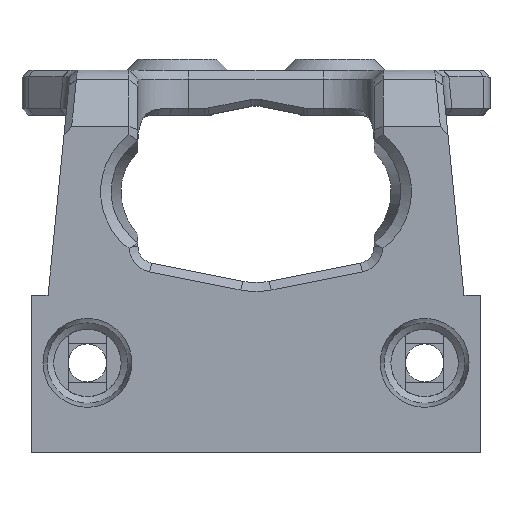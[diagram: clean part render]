
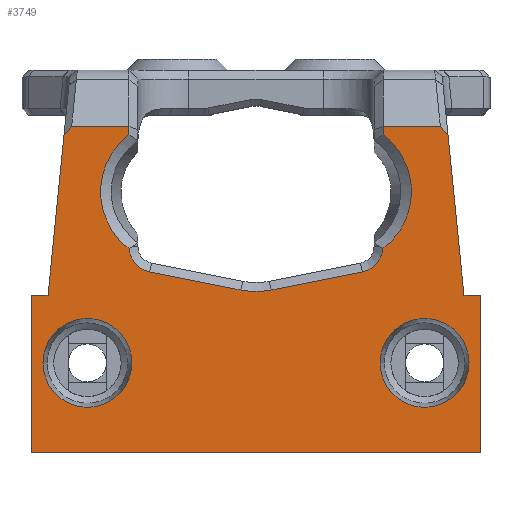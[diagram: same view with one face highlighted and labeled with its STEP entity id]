
A CAD part, top view. The second image highlights one B-rep face of the part: STEP entity #3749.
In plain terms, the highlighted planar face has unit normal (0, 0, 1).
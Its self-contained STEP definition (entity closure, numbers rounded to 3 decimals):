
#84=B_SPLINE_CURVE_WITH_KNOTS('',3,(#5677,#5678,#5679,#5680,#5681,#5682,
#5683),.UNSPECIFIED.,.F.,.F.,(4,1,1,1,4),(2.228,2.587,
3.003,3.557,4.054),.UNSPECIFIED.);
#85=B_SPLINE_CURVE_WITH_KNOTS('',3,(#5695,#5696,#5697,#5698,#5699,#5700,
#5701),.UNSPECIFIED.,.F.,.F.,(4,1,1,1,4),(-4.054,-3.557,
-3.003,-2.587,-2.228),.UNSPECIFIED.);
#185=FACE_BOUND('',#634,.T.);
#186=FACE_BOUND('',#635,.T.);
#280=PLANE('',#4027);
#412=FACE_OUTER_BOUND('',#633,.T.);
#633=EDGE_LOOP('',(#2817,#2818,#2819,#2820,#2821,#2822,#2823,#2824,#2825,
#2826,#2827,#2828,#2829,#2830,#2831,#2832,#2833,#2834,#2835,#2836));
#634=EDGE_LOOP('',(#2837));
#635=EDGE_LOOP('',(#2838));
#890=LINE('',#5571,#1232);
#908=LINE('',#5653,#1250);
#910=LINE('',#5657,#1252);
#911=LINE('',#5659,#1253);
#912=LINE('',#5661,#1254);
#913=LINE('',#5663,#1255);
#914=LINE('',#5665,#1256);
#915=LINE('',#5667,#1257);
#916=LINE('',#5669,#1258);
#917=LINE('',#5671,#1259);
#918=LINE('',#5673,#1260);
#919=LINE('',#5675,#1261);
#920=LINE('',#5687,#1262);
#921=LINE('',#5691,#1263);
#922=LINE('',#5702,#1264);
#1232=VECTOR('',#4517,10.);
#1250=VECTOR('',#4551,10.);
#1252=VECTOR('',#4555,10.);
#1253=VECTOR('',#4556,10.);
#1254=VECTOR('',#4557,10.);
#1255=VECTOR('',#4558,10.);
#1256=VECTOR('',#4559,10.);
#1257=VECTOR('',#4560,10.);
#1258=VECTOR('',#4561,10.);
#1259=VECTOR('',#4562,10.);
#1260=VECTOR('',#4563,10.);
#1261=VECTOR('',#4564,10.);
#1262=VECTOR('',#4567,10.);
#1263=VECTOR('',#4570,10.);
#1264=VECTOR('',#4573,10.);
#1494=CIRCLE('',#3940,3.952);
#1508=CIRCLE('',#3970,3.952);
#1534=CIRCLE('',#4028,2.3);
#1535=CIRCLE('',#4029,6.8);
#1536=CIRCLE('',#4030,2.3);
#1596=VERTEX_POINT('',#5221);
#1622=VERTEX_POINT('',#5305);
#1680=VERTEX_POINT('',#5569);
#1681=VERTEX_POINT('',#5570);
#1701=VERTEX_POINT('',#5652);
#1702=VERTEX_POINT('',#5656);
#1703=VERTEX_POINT('',#5658);
#1704=VERTEX_POINT('',#5660);
#1705=VERTEX_POINT('',#5662);
#1706=VERTEX_POINT('',#5664);
#1707=VERTEX_POINT('',#5666);
#1708=VERTEX_POINT('',#5668);
#1709=VERTEX_POINT('',#5670);
#1710=VERTEX_POINT('',#5672);
#1711=VERTEX_POINT('',#5674);
#1712=VERTEX_POINT('',#5676);
#1713=VERTEX_POINT('',#5684);
#1714=VERTEX_POINT('',#5686);
#1715=VERTEX_POINT('',#5688);
#1716=VERTEX_POINT('',#5690);
#1717=VERTEX_POINT('',#5692);
#1718=VERTEX_POINT('',#5694);
#1966=EDGE_CURVE('',#1596,#1596,#1494,.T.);
#2008=EDGE_CURVE('',#1622,#1622,#1508,.T.);
#2086=EDGE_CURVE('',#1680,#1681,#890,.T.);
#2114=EDGE_CURVE('',#1681,#1701,#908,.T.);
#2116=EDGE_CURVE('',#1680,#1702,#910,.T.);
#2117=EDGE_CURVE('',#1702,#1703,#911,.T.);
#2118=EDGE_CURVE('',#1703,#1704,#912,.T.);
#2119=EDGE_CURVE('',#1704,#1705,#913,.T.);
#2120=EDGE_CURVE('',#1705,#1706,#914,.T.);
#2121=EDGE_CURVE('',#1706,#1707,#915,.T.);
#2122=EDGE_CURVE('',#1707,#1708,#916,.T.);
#2123=EDGE_CURVE('',#1709,#1708,#917,.T.);
#2124=EDGE_CURVE('',#1710,#1709,#918,.T.);
#2125=EDGE_CURVE('',#1711,#1710,#919,.T.);
#2126=EDGE_CURVE('',#1712,#1711,#84,.T.);
#2127=EDGE_CURVE('',#1713,#1712,#1534,.T.);
#2128=EDGE_CURVE('',#1714,#1713,#920,.T.);
#2129=EDGE_CURVE('',#1715,#1714,#1535,.T.);
#2130=EDGE_CURVE('',#1716,#1715,#921,.T.);
#2131=EDGE_CURVE('',#1717,#1716,#1536,.T.);
#2132=EDGE_CURVE('',#1718,#1717,#85,.T.);
#2133=EDGE_CURVE('',#1701,#1718,#922,.T.);
#2817=ORIENTED_EDGE('',*,*,#2086,.F.);
#2818=ORIENTED_EDGE('',*,*,#2116,.T.);
#2819=ORIENTED_EDGE('',*,*,#2117,.T.);
#2820=ORIENTED_EDGE('',*,*,#2118,.T.);
#2821=ORIENTED_EDGE('',*,*,#2119,.T.);
#2822=ORIENTED_EDGE('',*,*,#2120,.T.);
#2823=ORIENTED_EDGE('',*,*,#2121,.T.);
#2824=ORIENTED_EDGE('',*,*,#2122,.T.);
#2825=ORIENTED_EDGE('',*,*,#2123,.F.);
#2826=ORIENTED_EDGE('',*,*,#2124,.F.);
#2827=ORIENTED_EDGE('',*,*,#2125,.F.);
#2828=ORIENTED_EDGE('',*,*,#2126,.F.);
#2829=ORIENTED_EDGE('',*,*,#2127,.F.);
#2830=ORIENTED_EDGE('',*,*,#2128,.F.);
#2831=ORIENTED_EDGE('',*,*,#2129,.F.);
#2832=ORIENTED_EDGE('',*,*,#2130,.F.);
#2833=ORIENTED_EDGE('',*,*,#2131,.F.);
#2834=ORIENTED_EDGE('',*,*,#2132,.F.);
#2835=ORIENTED_EDGE('',*,*,#2133,.F.);
#2836=ORIENTED_EDGE('',*,*,#2114,.F.);
#2837=ORIENTED_EDGE('',*,*,#1966,.T.);
#2838=ORIENTED_EDGE('',*,*,#2008,.T.);
#3749=ADVANCED_FACE('',(#412,#185,#186),#280,.T.);
#3940=AXIS2_PLACEMENT_3D('',#5222,#4294,#4295);
#3970=AXIS2_PLACEMENT_3D('',#5306,#4382,#4383);
#4027=AXIS2_PLACEMENT_3D('',#5655,#4553,#4554);
#4028=AXIS2_PLACEMENT_3D('',#5685,#4565,#4566);
#4029=AXIS2_PLACEMENT_3D('',#5689,#4568,#4569);
#4030=AXIS2_PLACEMENT_3D('',#5693,#4571,#4572);
#4294=DIRECTION('center_axis',(0.,0.,-1.));
#4295=DIRECTION('ref_axis',(1.,0.,0.));
#4382=DIRECTION('center_axis',(0.,0.,-1.));
#4383=DIRECTION('ref_axis',(-1.,0.,0.));
#4517=DIRECTION('',(0.63,0.777,0.));
#4551=DIRECTION('',(1.,0.,0.));
#4553=DIRECTION('center_axis',(0.,0.,1.));
#4554=DIRECTION('ref_axis',(1.,0.,0.));
#4555=DIRECTION('',(-0.099,-0.995,0.));
#4556=DIRECTION('',(-1.,0.,0.));
#4557=DIRECTION('',(0.,-1.,0.));
#4558=DIRECTION('',(1.,0.,0.));
#4559=DIRECTION('',(0.,1.,0.));
#4560=DIRECTION('',(-1.,0.,0.));
#4561=DIRECTION('',(-0.099,0.995,0.));
#4562=DIRECTION('',(0.63,-0.777,0.));
#4563=DIRECTION('',(1.,0.,0.));
#4564=DIRECTION('',(0.,1.,0.));
#4565=DIRECTION('center_axis',(0.,0.,1.));
#4566=DIRECTION('ref_axis',(0.773,-0.634,0.));
#4567=DIRECTION('',(0.981,0.196,0.));
#4568=DIRECTION('center_axis',(0.,0.,1.));
#4569=DIRECTION('ref_axis',(0.,-1.,0.));
#4570=DIRECTION('',(0.981,-0.196,0.));
#4571=DIRECTION('center_axis',(0.,0.,1.));
#4572=DIRECTION('ref_axis',(-0.773,-0.634,0.));
#4573=DIRECTION('',(0.,-1.,0.));
#5221=CARTESIAN_POINT('',(-8.952,-34.533,42.875));
#5222=CARTESIAN_POINT('Origin',(-5.,-34.533,42.875));
#5305=CARTESIAN_POINT('',(-31.048,-34.533,42.875));
#5306=CARTESIAN_POINT('Origin',(-35.,-34.533,42.875));
#5569=CARTESIAN_POINT('',(-37.084,-14.32,42.875));
#5570=CARTESIAN_POINT('',(-36.398,-13.473,42.875));
#5571=CARTESIAN_POINT('',(-36.318,-13.374,42.875));
#5652=CARTESIAN_POINT('',(-31.3,-13.473,42.875));
#5653=CARTESIAN_POINT('',(-11.75,-13.473,42.875));
#5655=CARTESIAN_POINT('Origin',(-20.,-25.503,42.875));
#5656=CARTESIAN_POINT('',(-38.5,-28.5,42.875));
#5657=CARTESIAN_POINT('',(-36.5,-8.473,42.875));
#5658=CARTESIAN_POINT('',(-40.,-28.5,42.875));
#5659=CARTESIAN_POINT('',(-32.6,-28.5,42.875));
#5660=CARTESIAN_POINT('',(-40.,-42.533,42.875));
#5661=CARTESIAN_POINT('',(-40.,-28.5,42.875));
#5662=CARTESIAN_POINT('',(0.,-42.533,42.875));
#5663=CARTESIAN_POINT('',(-40.,-42.533,42.875));
#5664=CARTESIAN_POINT('',(0.,-28.5,42.875));
#5665=CARTESIAN_POINT('',(0.,-42.533,42.875));
#5666=CARTESIAN_POINT('',(-1.5,-28.5,42.875));
#5667=CARTESIAN_POINT('',(0.,-28.5,42.875));
#5668=CARTESIAN_POINT('',(-2.916,-14.32,42.875));
#5669=CARTESIAN_POINT('',(-1.5,-28.5,42.875));
#5670=CARTESIAN_POINT('',(-3.602,-13.473,42.875));
#5671=CARTESIAN_POINT('',(-3.574,-13.508,42.875));
#5672=CARTESIAN_POINT('',(-8.7,-13.473,42.875));
#5673=CARTESIAN_POINT('',(-11.75,-13.473,42.875));
#5674=CARTESIAN_POINT('',(-8.7,-14.234,42.875));
#5675=CARTESIAN_POINT('',(-8.7,-16.988,42.875));
#5676=CARTESIAN_POINT('',(-8.708,-24.373,42.875));
#5677=CARTESIAN_POINT('Ctrl Pts',(-8.708,-24.373,42.875));
#5678=CARTESIAN_POINT('Ctrl Pts',(-8.091,-23.904,42.875));
#5679=CARTESIAN_POINT('Ctrl Pts',(-6.946,-22.658,42.875));
#5680=CARTESIAN_POINT('Ctrl Pts',(-5.94,-19.927,42.875));
#5681=CARTESIAN_POINT('Ctrl Pts',(-6.397,-16.7,42.875));
#5682=CARTESIAN_POINT('Ctrl Pts',(-7.85,-14.882,42.875));
#5683=CARTESIAN_POINT('Ctrl Pts',(-8.7,-14.234,42.875));
#5684=CARTESIAN_POINT('',(-10.549,-26.434,42.875));
#5685=CARTESIAN_POINT('Origin',(-11.,-24.179,42.875));
#5686=CARTESIAN_POINT('',(-18.666,-28.058,42.875));
#5687=CARTESIAN_POINT('',(-14.4,-27.205,42.875));
#5688=CARTESIAN_POINT('',(-21.334,-28.058,42.875));
#5689=CARTESIAN_POINT('Origin',(-20.,-21.39,42.875));
#5690=CARTESIAN_POINT('',(-29.451,-26.434,42.875));
#5691=CARTESIAN_POINT('',(-20.35,-28.255,42.875));
#5692=CARTESIAN_POINT('',(-31.292,-24.373,42.875));
#5693=CARTESIAN_POINT('Origin',(-29.,-24.179,42.875));
#5694=CARTESIAN_POINT('',(-31.3,-14.234,42.875));
#5695=CARTESIAN_POINT('Ctrl Pts',(-31.3,-14.234,42.875));
#5696=CARTESIAN_POINT('Ctrl Pts',(-32.15,-14.882,42.875));
#5697=CARTESIAN_POINT('Ctrl Pts',(-33.603,-16.7,42.875));
#5698=CARTESIAN_POINT('Ctrl Pts',(-34.06,-19.927,42.875));
#5699=CARTESIAN_POINT('Ctrl Pts',(-33.054,-22.658,42.875));
#5700=CARTESIAN_POINT('Ctrl Pts',(-31.909,-23.904,42.875));
#5701=CARTESIAN_POINT('Ctrl Pts',(-31.292,-24.373,42.875));
#5702=CARTESIAN_POINT('',(-31.3,-25.456,42.875));
